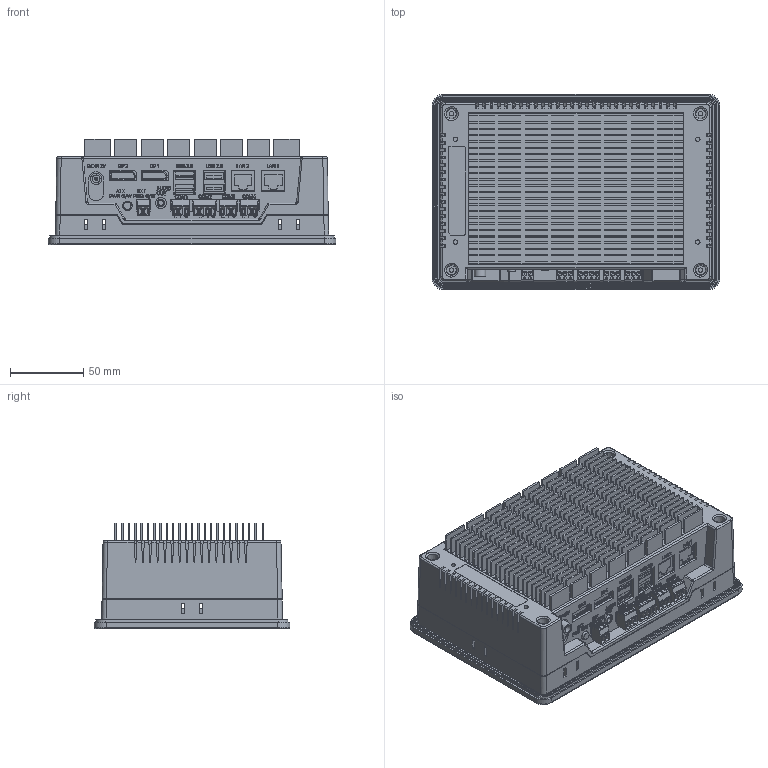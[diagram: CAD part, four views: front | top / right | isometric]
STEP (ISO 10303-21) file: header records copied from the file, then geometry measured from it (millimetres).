
FILE_DESCRIPTION (( 'STEP AP214' ), '1' );
FILE_NAME ('CPCV6-070WR_rev0_forstep.STEP', '2025-11-11T05:57:11', ( '' ), ( '' ), 'SwSTEP 2.0', 'SolidWorks 2020', '' );
FILE_SCHEMA (( 'AUTOMOTIVE_DESIGN' ));
Products named in the file (1): CPCV6-070WR_rev0_forstep
Bounding box: 196 x 133 x 71.8 mm (x, y, z)
Volume: 1209028 mm3; surface area: 328815.9 mm2
Topology: 1 solids, 21 shells, 4143 faces, 11539 edges, 7581 vertices
Faces by surface type: plane 3308, bspline 425, cylinder 377, cone 25, torus 8
Full cylindrical faces by diameter (mm): 1 x15, 2 x1, 2.8 x15, 3 x8, 3.6 x1, 5 x2, 5.4 x1, 6.5 x1, 7.5 x1, 7.8 x1
Entity records: 151226 total; most frequent: CARTESIAN_POINT 48714, ORIENTED_EDGE 22872, DIRECTION 18114, EDGE_CURVE 11436, VECTOR 9718, LINE 9718, VERTEX_POINT 7543, EDGE_LOOP 4605
